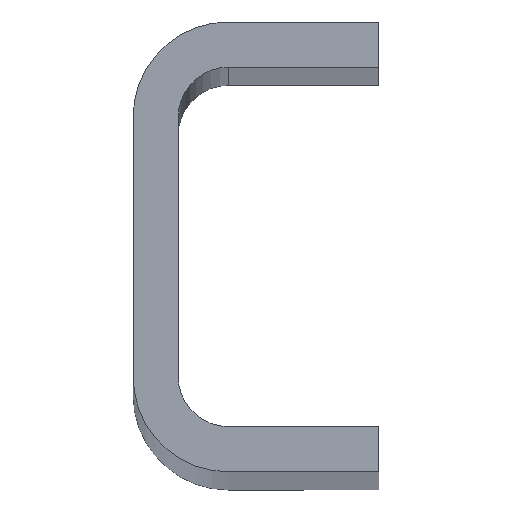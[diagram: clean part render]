
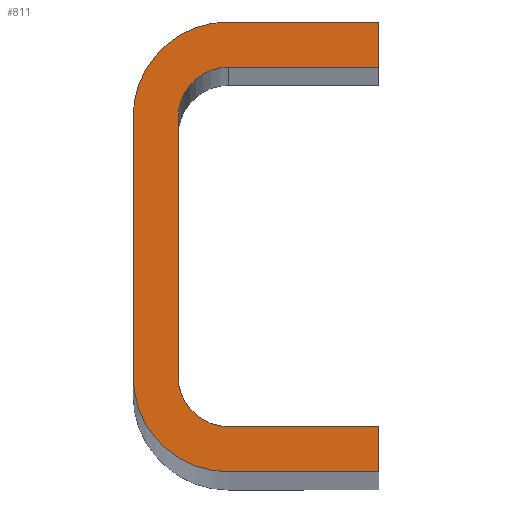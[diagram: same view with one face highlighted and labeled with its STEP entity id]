
A CAD part, top view. The second image highlights one B-rep face of the part: STEP entity #811.
In plain terms, the highlighted planar face has unit normal (0, 0, 1).
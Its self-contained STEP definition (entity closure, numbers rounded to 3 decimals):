
#100 = LINE ( 'NONE', #745, #248 ) ;
#110 = AXIS2_PLACEMENT_3D ( 'NONE', #1206, #1798, #1852 ) ;
#138 = ORIENTED_EDGE ( 'NONE', *, *, #872, .T. ) ;
#145 = CARTESIAN_POINT ( 'NONE',  ( 24.5, 17.9, 0. ) ) ;
#158 = AXIS2_PLACEMENT_3D ( 'NONE', #2635, #481, #2410 ) ;
#159 = EDGE_CURVE ( 'NONE', #1108, #183, #1874, .T. ) ;
#183 = VERTEX_POINT ( 'NONE', #1720 ) ;
#218 = VECTOR ( 'NONE', #1475, 1000. ) ;
#227 = LINE ( 'NONE', #1935, #218 ) ;
#248 = VECTOR ( 'NONE', #2464, 1000. ) ;
#257 = VERTEX_POINT ( 'NONE', #2012 ) ;
#258 = CARTESIAN_POINT ( 'NONE',  ( 24.5, -22.4, 0. ) ) ;
#400 = EDGE_CURVE ( 'NONE', #1845, #981, #1209, .T. ) ;
#443 = DIRECTION ( 'NONE',  ( -1., 0., 0. ) ) ;
#469 = DIRECTION ( 'NONE',  ( 0., 1., 0. ) ) ;
#481 = DIRECTION ( 'NONE',  ( 0., 0., -1. ) ) ;
#499 = ORIENTED_EDGE ( 'NONE', *, *, #1952, .T. ) ;
#522 = DIRECTION ( 'NONE',  ( 1., 0., 0. ) ) ;
#534 = CARTESIAN_POINT ( 'NONE',  ( 24.5, 22.4, 0. ) ) ;
#562 = DIRECTION ( 'NONE',  ( -1., 0., 0. ) ) ;
#584 = EDGE_CURVE ( 'NONE', #183, #1845, #1831, .T. ) ;
#663 = AXIS2_PLACEMENT_3D ( 'NONE', #1527, #1299, #443 ) ;
#677 = VERTEX_POINT ( 'NONE', #2431 ) ;
#745 = CARTESIAN_POINT ( 'NONE',  ( 9.5, -22.4, 0. ) ) ;
#782 = ORIENTED_EDGE ( 'NONE', *, *, #1703, .T. ) ;
#786 = DIRECTION ( 'NONE',  ( 0., 0., 1. ) ) ;
#793 = LINE ( 'NONE', #1641, #2514 ) ;
#811 = ADVANCED_FACE ( 'NONE', ( #2297 ), #1240, .T. ) ;
#820 = CARTESIAN_POINT ( 'NONE',  ( 0., 12.9, 0. ) ) ;
#827 = DIRECTION ( 'NONE',  ( 0., 0., 1. ) ) ;
#865 = DIRECTION ( 'NONE',  ( 0., 1., 0. ) ) ;
#872 = EDGE_CURVE ( 'NONE', #1522, #677, #1844, .T. ) ;
#891 = ORIENTED_EDGE ( 'NONE', *, *, #1756, .T. ) ;
#904 = ORIENTED_EDGE ( 'NONE', *, *, #2257, .T. ) ;
#940 = ORIENTED_EDGE ( 'NONE', *, *, #1573, .T. ) ;
#981 = VERTEX_POINT ( 'NONE', #534 ) ;
#985 = AXIS2_PLACEMENT_3D ( 'NONE', #1904, #827, #2267 ) ;
#992 = CARTESIAN_POINT ( 'NONE',  ( 9.5, 22.4, 0. ) ) ;
#1005 = DIRECTION ( 'NONE',  ( 0., 1., 0. ) ) ;
#1012 = CARTESIAN_POINT ( 'NONE',  ( 9.5, -22.4, 0. ) ) ;
#1016 = AXIS2_PLACEMENT_3D ( 'NONE', #2717, #786, #1636 ) ;
#1076 = LINE ( 'NONE', #1694, #2150 ) ;
#1108 = VERTEX_POINT ( 'NONE', #2623 ) ;
#1122 = VERTEX_POINT ( 'NONE', #1341 ) ;
#1132 = CARTESIAN_POINT ( 'NONE',  ( 9.5, 17.9, 0. ) ) ;
#1133 = VERTEX_POINT ( 'NONE', #1150 ) ;
#1150 = CARTESIAN_POINT ( 'NONE',  ( 0., -12.9, 0. ) ) ;
#1181 = ORIENTED_EDGE ( 'NONE', *, *, #2682, .T. ) ;
#1200 = EDGE_CURVE ( 'NONE', #981, #1261, #793, .T. ) ;
#1206 = CARTESIAN_POINT ( 'NONE',  ( 9.5, 12.9, 0. ) ) ;
#1209 = LINE ( 'NONE', #145, #1645 ) ;
#1239 = DIRECTION ( 'NONE',  ( 0., -1., 0. ) ) ;
#1240 = PLANE ( 'NONE',  #985 ) ;
#1250 = VECTOR ( 'NONE', #865, 1000. ) ;
#1261 = VERTEX_POINT ( 'NONE', #992 ) ;
#1299 = DIRECTION ( 'NONE',  ( 0., 0., -1. ) ) ;
#1341 = CARTESIAN_POINT ( 'NONE',  ( 9.5, -17.9, 0. ) ) ;
#1347 = ORIENTED_EDGE ( 'NONE', *, *, #159, .T. ) ;
#1367 = CIRCLE ( 'NONE', #158, 5. ) ;
#1374 = CARTESIAN_POINT ( 'NONE',  ( 24.5, 17.9, 0. ) ) ;
#1475 = DIRECTION ( 'NONE',  ( -1., 0., 0. ) ) ;
#1522 = VERTEX_POINT ( 'NONE', #1690 ) ;
#1527 = CARTESIAN_POINT ( 'NONE',  ( 9.5, 12.9, 0. ) ) ;
#1546 = CARTESIAN_POINT ( 'NONE',  ( 4.5, -12.9, 0. ) ) ;
#1573 = EDGE_CURVE ( 'NONE', #2241, #1133, #1076, .T. ) ;
#1604 = VECTOR ( 'NONE', #522, 1000. ) ;
#1613 = EDGE_LOOP ( 'NONE', ( #2533, #2181, #2433, #2503, #940, #904, #499, #138, #1181, #891, #782, #1347 ) ) ;
#1636 = DIRECTION ( 'NONE',  ( 1., 0., 0. ) ) ;
#1641 = CARTESIAN_POINT ( 'NONE',  ( 24.5, 22.4, 0. ) ) ;
#1645 = VECTOR ( 'NONE', #1005, 1000. ) ;
#1690 = CARTESIAN_POINT ( 'NONE',  ( 24.5, -22.4, 0. ) ) ;
#1694 = CARTESIAN_POINT ( 'NONE',  ( 0., 12.9, 0. ) ) ;
#1703 = EDGE_CURVE ( 'NONE', #257, #1108, #1745, .T. ) ;
#1720 = CARTESIAN_POINT ( 'NONE',  ( 9.5, 17.9, 0. ) ) ;
#1745 = LINE ( 'NONE', #1546, #2174 ) ;
#1756 = EDGE_CURVE ( 'NONE', #1122, #257, #1367, .T. ) ;
#1770 = CIRCLE ( 'NONE', #110, 9.5 ) ;
#1798 = DIRECTION ( 'NONE',  ( 0., 0., 1. ) ) ;
#1831 = LINE ( 'NONE', #1132, #1604 ) ;
#1844 = LINE ( 'NONE', #258, #1250 ) ;
#1845 = VERTEX_POINT ( 'NONE', #1374 ) ;
#1852 = DIRECTION ( 'NONE',  ( 1., 0., 0. ) ) ;
#1874 = CIRCLE ( 'NONE', #663, 5. ) ;
#1904 = CARTESIAN_POINT ( 'NONE',  ( 9.5, 12.9, 0. ) ) ;
#1906 = EDGE_CURVE ( 'NONE', #1261, #2241, #1770, .T. ) ;
#1935 = CARTESIAN_POINT ( 'NONE',  ( 24.5, -17.9, 0. ) ) ;
#1952 = EDGE_CURVE ( 'NONE', #2196, #1522, #100, .T. ) ;
#2012 = CARTESIAN_POINT ( 'NONE',  ( 4.5, -12.9, 0. ) ) ;
#2150 = VECTOR ( 'NONE', #1239, 1000. ) ;
#2174 = VECTOR ( 'NONE', #469, 1000. ) ;
#2181 = ORIENTED_EDGE ( 'NONE', *, *, #400, .T. ) ;
#2196 = VERTEX_POINT ( 'NONE', #1012 ) ;
#2241 = VERTEX_POINT ( 'NONE', #820 ) ;
#2257 = EDGE_CURVE ( 'NONE', #1133, #2196, #2266, .T. ) ;
#2266 = CIRCLE ( 'NONE', #1016, 9.5 ) ;
#2267 = DIRECTION ( 'NONE',  ( 1., 0., 0. ) ) ;
#2297 = FACE_OUTER_BOUND ( 'NONE', #1613, .T. ) ;
#2410 = DIRECTION ( 'NONE',  ( -1., 0., 0. ) ) ;
#2431 = CARTESIAN_POINT ( 'NONE',  ( 24.5, -17.9, 0. ) ) ;
#2433 = ORIENTED_EDGE ( 'NONE', *, *, #1200, .T. ) ;
#2464 = DIRECTION ( 'NONE',  ( 1., 0., 0. ) ) ;
#2503 = ORIENTED_EDGE ( 'NONE', *, *, #1906, .T. ) ;
#2514 = VECTOR ( 'NONE', #562, 1000. ) ;
#2533 = ORIENTED_EDGE ( 'NONE', *, *, #584, .T. ) ;
#2623 = CARTESIAN_POINT ( 'NONE',  ( 4.5, 12.9, 0. ) ) ;
#2635 = CARTESIAN_POINT ( 'NONE',  ( 9.5, -12.9, 0. ) ) ;
#2682 = EDGE_CURVE ( 'NONE', #677, #1122, #227, .T. ) ;
#2717 = CARTESIAN_POINT ( 'NONE',  ( 9.5, -12.9, 0. ) ) ;
